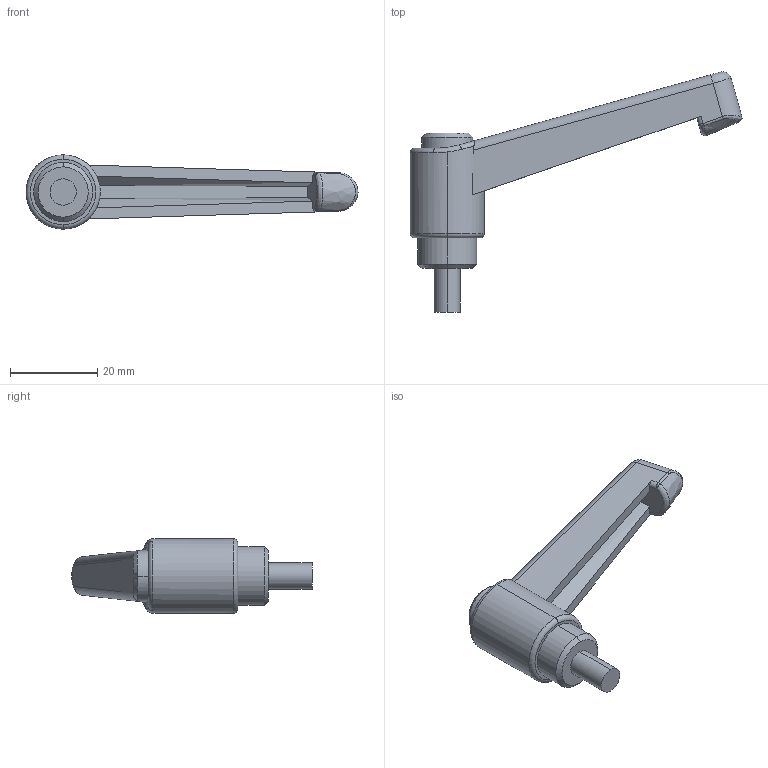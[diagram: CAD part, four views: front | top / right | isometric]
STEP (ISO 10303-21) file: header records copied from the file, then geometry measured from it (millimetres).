
FILE_DESCRIPTION (( 'STEP AP203' ), '1' );
FILE_NAME ('AS-406-63-M6.STEP', '2015-11-23T07:11:21', ( '' ), ( '' ), 'SwSTEP 2.0', 'SolidWorks 2014', '' );
FILE_SCHEMA (( 'CONFIG_CONTROL_DESIGN' ));
Length unit declared in the file: millimetre
Products named in the file (1): AS-406-63-M6
Bounding box: 76.02 x 55.03 x 17 mm (x, y, z)
Volume: 11687.9 mm3; surface area: 4838 mm2
Topology: 1 solids, 1 shells, 54 faces, 128 edges, 78 vertices
Faces by surface type: plane 16, cylinder 15, bspline 11, torus 4, cone 4, sphere 4
Entity records: 2133 total; most frequent: CARTESIAN_POINT 907, ORIENTED_EDGE 256, DIRECTION 225, EDGE_CURVE 128, AXIS2_PLACEMENT_3D 94, VERTEX_POINT 78, EDGE_LOOP 56, ADVANCED_FACE 54
